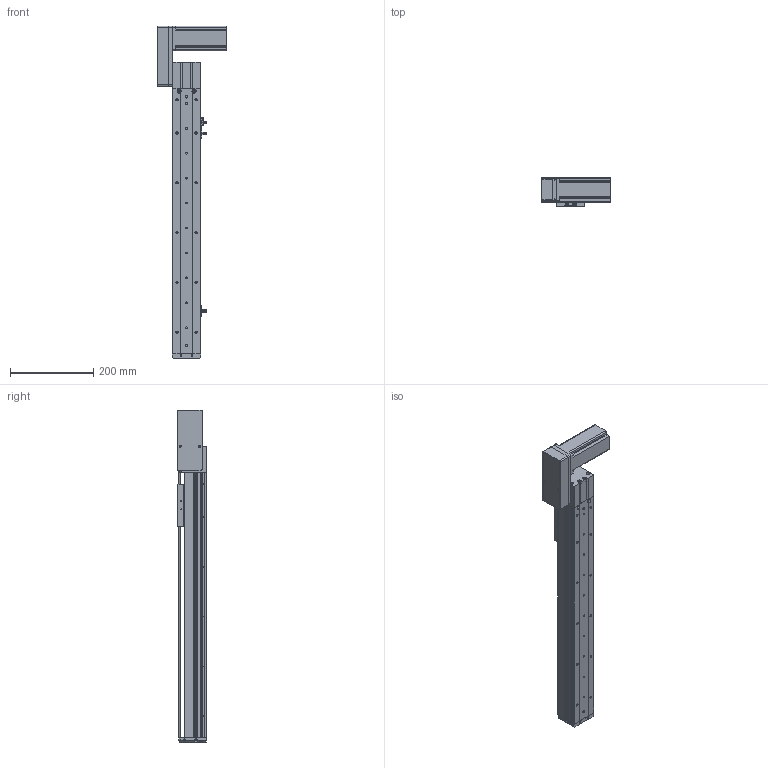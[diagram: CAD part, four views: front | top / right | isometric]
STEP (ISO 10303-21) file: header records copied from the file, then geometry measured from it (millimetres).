
FILE_DESCRIPTION (( 'STEP AP214' ), '1' );
FILE_NAME ('KSD68BS-S450-MRB-CM.STEP', '2019-11-06T07:22:10', ( '微软用户' ), ( '微软中国' ), 'SwSTEP 2.0', 'SolidWorks 2014', '' );
FILE_SCHEMA (( 'AUTOMOTIVE_DESIGN' ));
Length unit declared in the file: millimetre
Products named in the file (11): 68单导轨同步带半封闭端板; KSD68BS 450俴最裔啣圉猾敕; 覜茼え68遵圉猾敕; KSD68BS半封闭同步带传动导轨座; U倰嫖萇EEㄜSX672; 台达ECMA－C20604AS伺服电机（400W); KSD68BS 450俴最菁啣圉猾敕; KSD68BS-S450-MRB-CM; 悵誘欶奻狟殏; 68宽马达安装板连板上折同步带; 68宽单导轨半封闭同步带主动轮座右
Assembly tree (12 placements, depth 2):
  KSD68BS-S450-MRB-CM
    KSD68BS 450俴最菁啣圉猾敕
    台达ECMA－C20604AS伺服电机（400W)
    U倰嫖萇EEㄜSX672  x3
    KSD68BS半封闭同步带传动导轨座
    覜茼え68遵圉猾敕
    KSD68BS 450俴最裔啣圉猾敕
    68单导轨同步带半封闭端板
    68宽单导轨半封闭同步带主动轮座右
    68宽马达安装板连板上折同步带
    悵誘欶奻狟殏
Bounding box: 167.2 x 70.5 x 799.5 mm (x, y, z)
Volume: 1676515.7 mm3; surface area: 540357.8 mm2
Topology: 13 solids, 13 shells, 1292 faces, 3668 edges, 2382 vertices
Faces by surface type: cylinder 610, plane 599, cone 83
Entity records: 45283 total; most frequent: CARTESIAN_POINT 8350, DIRECTION 6130, ORIENTED_EDGE 6088, EDGE_CURVE 3044, AXIS2_PLACEMENT_3D 2202, VERTEX_POINT 2006, LINE 1726, VECTOR 1726
